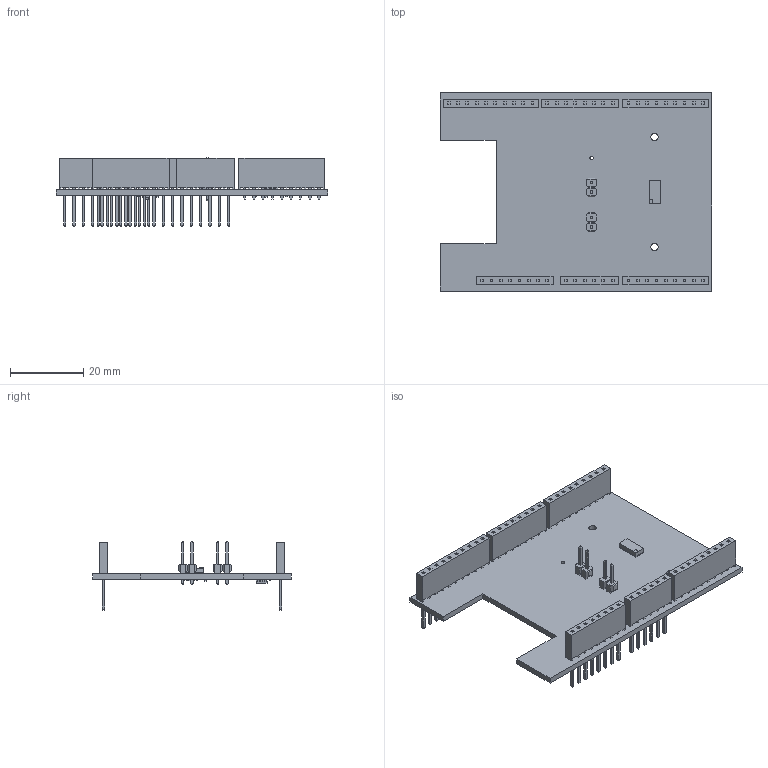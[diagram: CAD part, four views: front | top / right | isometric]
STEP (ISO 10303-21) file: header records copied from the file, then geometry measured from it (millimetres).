
FILE_DESCRIPTION(('Open CASCADE Model'),'2;1');
FILE_NAME('Open CASCADE Shape Model','2021-10-27T14:27:04',('Author'),( 'Open CASCADE'),'Open CASCADE STEP processor 6.8','Open CASCADE 6.8' ,'Unknown');
FILE_SCHEMA(('AUTOMOTIVE_DESIGN { 1 0 10303 214 1 1 1 1 }'));
Length unit declared in the file: millimetre
Products named in the file (59): PCB; Board; Open CASCADE STEP translator 6.8 3.1.1; CN9; SSQ-108-03-F-S; _T1SSQ-108-03-F-S; _P2SSQ-108-03-F-S; CN8; SSQ-106-03-F-S; _T1SSQ-106-03-F-S; _P2SSQ-106-03-F-S; CN6; CN5; SSQ-110-03-F-S; _T1SSQ-110-03-F-S; _P2SSQ-110-03-F-S; U2; 6537619040; Extruded; 6537618800; 6537618560; U1; CircuitWorks-SOT-23-5; R7; 6537616960; 5039165088; R2; 5039165488; R1; C2; 5038817200; 6537616240; C1; 6537615840; J5_Right; SSW-109-01-G-S; _T1SSW-109-01-G-S; _P2SSW-109-01-G-S; J5_Left; R6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
Assembly tree (77 placements, depth 4):
  PCB
    Board
      Open CASCADE STEP translator 6.8 3.1.1
    CN9
      SSQ-108-03-F-S
        _T1SSQ-108-03-F-S
        _P2SSQ-108-03-F-S
    CN8
      SSQ-106-03-F-S
        _T1SSQ-106-03-F-S
        _P2SSQ-106-03-F-S
    CN6
      SSQ-108-03-F-S
        _T1SSQ-108-03-F-S
        _P2SSQ-108-03-F-S
    CN5
      SSQ-110-03-F-S
        _T1SSQ-110-03-F-S
        _P2SSQ-110-03-F-S
    U2
      6537619040
        Extruded
      6537618800
        Extruded
      6537618560
        Extruded
    U1
      CircuitWorks-SOT-23-5
    R7
      6537616960  x2
        Extruded
      5039165088
        Extruded
    R2
      5039165488
        Extruded
    R1
      5039165488
        Extruded
    C2
      5038817200
        Extruded
      6537616240  x2
        Extruded
    C1
      6537615840
        Extruded
    J5_Right
      SSW-109-01-G-S
        _T1SSW-109-01-G-S
        _P2SSW-109-01-G-S
    J5_Left
      SSW-109-01-G-S
        _T1SSW-109-01-G-S
        _P2SSW-109-01-G-S
    R6
      6537616960  x2
        Extruded
      5039165088
        Extruded
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Bounding box: 74 x 54 x 18.63 mm (x, y, z)
Volume: 8193.5 mm3; surface area: 13853.1 mm2
Topology: 45 solids, 45 shells, 1826 faces, 4988 edges, 3302 vertices
Faces by surface type: plane 1769, cylinder 57
Full cylindrical faces by diameter (mm): 0.3 x12, 1 x5, 1.1 x18, 2 x2
Entity records: 48499 total; most frequent: CARTESIAN_POINT 7719, ORIENTED_EDGE 7564, DIRECTION 6750, EDGE_CURVE 3782, LINE 3668, VECTOR 3668, VERTEX_POINT 2510, FACE_BOUND 1590
